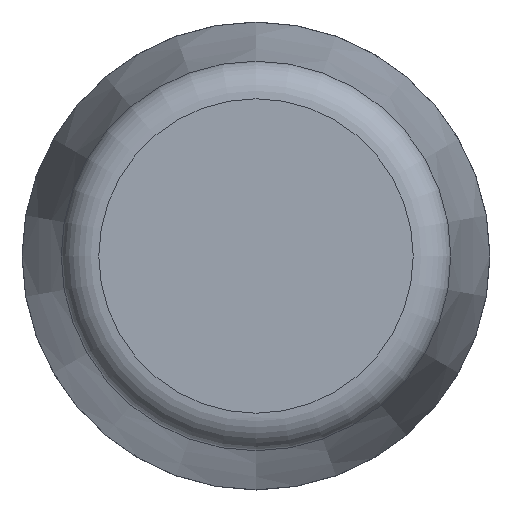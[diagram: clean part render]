
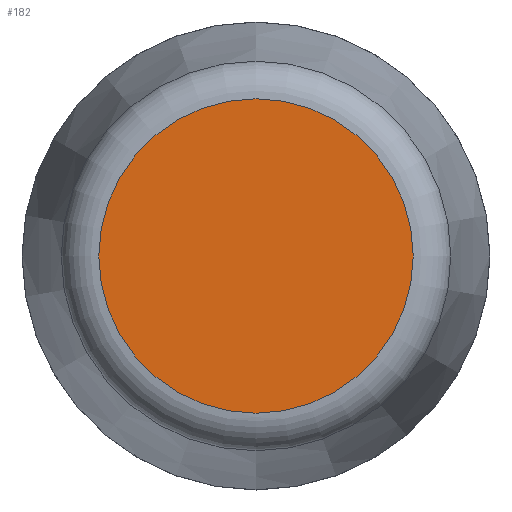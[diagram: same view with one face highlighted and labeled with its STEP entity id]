
A CAD part, front view. The second image highlights one B-rep face of the part: STEP entity #182.
In plain terms, the highlighted planar face has unit normal (0, -1, 0).
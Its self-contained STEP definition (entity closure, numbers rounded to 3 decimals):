
#182 = ADVANCED_FACE( '', ( #217 ), #218, .F. );
#217 = FACE_OUTER_BOUND( '', #292, .T. );
#218 = PLANE( '', #293 );
#292 = EDGE_LOOP( '', ( #368 ) );
#293 = AXIS2_PLACEMENT_3D( '', #369, #370, #371 );
#368 = ORIENTED_EDGE( '', *, *, #564, .T. );
#369 = CARTESIAN_POINT( '', ( 10.339, 0., 0. ) );
#370 = DIRECTION( '', ( 0., 1., 0. ) );
#371 = DIRECTION( '', ( 0., 0., 1. ) );
#564 = EDGE_CURVE( '', #619, #619, #620, .T. );
#619 = VERTEX_POINT( '', #707 );
#620 = CIRCLE( '', #708, 10.339 );
#707 = CARTESIAN_POINT( '', ( 0., 0., -10.339 ) );
#708 = AXIS2_PLACEMENT_3D( '', #938, #939, #940 );
#938 = CARTESIAN_POINT( '', ( 0., 0., 0. ) );
#939 = DIRECTION( '', ( 0., -1., 0. ) );
#940 = DIRECTION( '', ( 0., 0., -1. ) );
